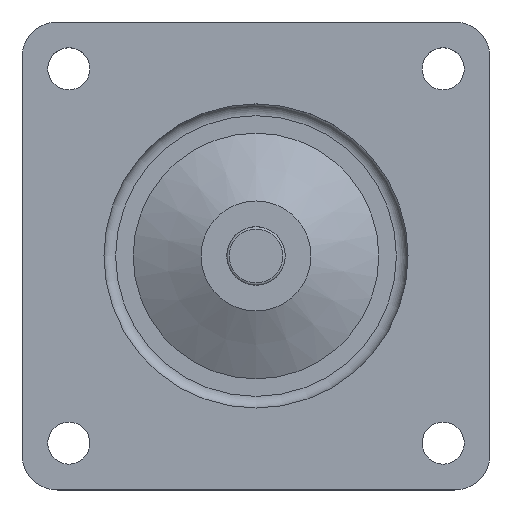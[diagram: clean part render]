
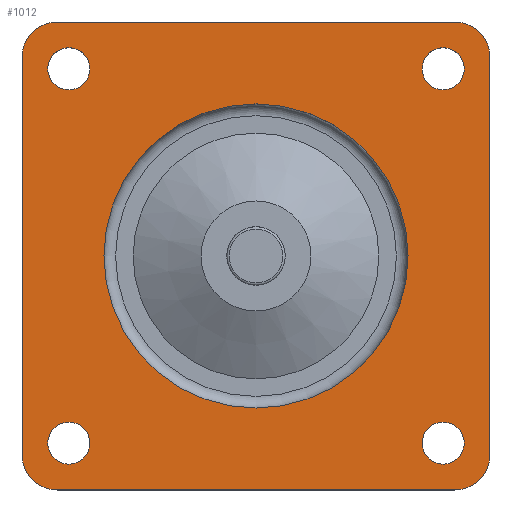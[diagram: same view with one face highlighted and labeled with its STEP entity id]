
A CAD part, top view. The second image highlights one B-rep face of the part: STEP entity #1012.
In plain terms, the highlighted planar face has unit normal (0, 0, 1).
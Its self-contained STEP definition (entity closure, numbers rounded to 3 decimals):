
#52=PLANE('',#1146);
#90=LINE('',#1618,#136);
#93=LINE('',#1626,#139);
#94=LINE('',#1640,#140);
#98=LINE('',#1663,#144);
#136=VECTOR('',#1316,170.);
#139=VECTOR('',#1325,170.);
#140=VECTOR('',#1340,170.);
#144=VECTOR('',#1370,170.);
#180=FACE_BOUND('',#372,.T.);
#181=FACE_BOUND('',#373,.T.);
#182=FACE_BOUND('',#374,.T.);
#183=FACE_BOUND('',#375,.T.);
#184=FACE_BOUND('',#376,.T.);
#272=FACE_OUTER_BOUND('',#371,.T.);
#371=EDGE_LOOP('',(#868,#869,#870,#871,#872,#873,#874,#875));
#372=EDGE_LOOP('',(#876));
#373=EDGE_LOOP('',(#877));
#374=EDGE_LOOP('',(#878));
#375=EDGE_LOOP('',(#879));
#376=EDGE_LOOP('',(#880));
#415=CIRCLE('',#1078,15.);
#416=CIRCLE('',#1081,15.);
#422=CIRCLE('',#1091,15.);
#423=CIRCLE('',#1093,15.);
#424=CIRCLE('',#1095,9.);
#425=CIRCLE('',#1097,9.);
#426=CIRCLE('',#1099,9.);
#427=CIRCLE('',#1101,9.);
#449=CIRCLE('',#1147,65.);
#498=VERTEX_POINT('',#1610);
#499=VERTEX_POINT('',#1612);
#500=VERTEX_POINT('',#1616);
#501=VERTEX_POINT('',#1620);
#502=VERTEX_POINT('',#1624);
#508=VERTEX_POINT('',#1639);
#509=VERTEX_POINT('',#1643);
#510=VERTEX_POINT('',#1647);
#511=VERTEX_POINT('',#1651);
#512=VERTEX_POINT('',#1654);
#513=VERTEX_POINT('',#1657);
#514=VERTEX_POINT('',#1660);
#535=VERTEX_POINT('',#1728);
#606=EDGE_CURVE('',#498,#499,#415,.T.);
#609=EDGE_CURVE('',#500,#498,#90,.T.);
#611=EDGE_CURVE('',#501,#500,#416,.T.);
#613=EDGE_CURVE('',#502,#501,#93,.T.);
#619=EDGE_CURVE('',#499,#508,#94,.T.);
#621=EDGE_CURVE('',#508,#509,#422,.T.);
#624=EDGE_CURVE('',#510,#502,#423,.T.);
#625=EDGE_CURVE('',#511,#511,#424,.T.);
#626=EDGE_CURVE('',#512,#512,#425,.T.);
#627=EDGE_CURVE('',#513,#513,#426,.T.);
#628=EDGE_CURVE('',#514,#514,#427,.T.);
#629=EDGE_CURVE('',#509,#510,#98,.T.);
#651=EDGE_CURVE('',#535,#535,#449,.T.);
#868=ORIENTED_EDGE('',*,*,#611,.F.);
#869=ORIENTED_EDGE('',*,*,#613,.F.);
#870=ORIENTED_EDGE('',*,*,#624,.F.);
#871=ORIENTED_EDGE('',*,*,#629,.F.);
#872=ORIENTED_EDGE('',*,*,#621,.F.);
#873=ORIENTED_EDGE('',*,*,#619,.F.);
#874=ORIENTED_EDGE('',*,*,#606,.F.);
#875=ORIENTED_EDGE('',*,*,#609,.F.);
#876=ORIENTED_EDGE('',*,*,#625,.T.);
#877=ORIENTED_EDGE('',*,*,#626,.T.);
#878=ORIENTED_EDGE('',*,*,#627,.T.);
#879=ORIENTED_EDGE('',*,*,#628,.T.);
#880=ORIENTED_EDGE('',*,*,#651,.F.);
#1012=ADVANCED_FACE('',(#272,#180,#181,#182,#183,#184),#52,.T.);
#1078=AXIS2_PLACEMENT_3D('',#1613,#1310,#1311);
#1081=AXIS2_PLACEMENT_3D('',#1622,#1320,#1321);
#1091=AXIS2_PLACEMENT_3D('',#1644,#1344,#1345);
#1093=AXIS2_PLACEMENT_3D('',#1649,#1350,#1351);
#1095=AXIS2_PLACEMENT_3D('',#1652,#1354,#1355);
#1097=AXIS2_PLACEMENT_3D('',#1655,#1358,#1359);
#1099=AXIS2_PLACEMENT_3D('',#1658,#1362,#1363);
#1101=AXIS2_PLACEMENT_3D('',#1661,#1366,#1367);
#1146=AXIS2_PLACEMENT_3D('',#1727,#1457,#1458);
#1147=AXIS2_PLACEMENT_3D('',#1729,#1459,#1460);
#1310=DIRECTION('center_axis',(0.,0.,-1.));
#1311=DIRECTION('ref_axis',(-0.707,0.707,0.));
#1316=DIRECTION('',(0.,1.,0.));
#1320=DIRECTION('center_axis',(0.,0.,-1.));
#1321=DIRECTION('ref_axis',(-0.707,-0.707,0.));
#1325=DIRECTION('',(-1.,0.,0.));
#1340=DIRECTION('',(1.,0.,0.));
#1344=DIRECTION('center_axis',(0.,0.,-1.));
#1345=DIRECTION('ref_axis',(0.707,0.707,0.));
#1350=DIRECTION('center_axis',(0.,0.,-1.));
#1351=DIRECTION('ref_axis',(0.707,-0.707,0.));
#1354=DIRECTION('center_axis',(0.,0.,-1.));
#1355=DIRECTION('ref_axis',(1.,0.,0.));
#1358=DIRECTION('center_axis',(0.,0.,-1.));
#1359=DIRECTION('ref_axis',(1.,0.,0.));
#1362=DIRECTION('center_axis',(0.,0.,-1.));
#1363=DIRECTION('ref_axis',(1.,0.,0.));
#1366=DIRECTION('center_axis',(0.,0.,-1.));
#1367=DIRECTION('ref_axis',(1.,0.,0.));
#1370=DIRECTION('',(0.,-1.,0.));
#1457=DIRECTION('center_axis',(0.,0.,1.));
#1458=DIRECTION('ref_axis',(1.,0.,0.));
#1459=DIRECTION('center_axis',(0.,0.,1.));
#1460=DIRECTION('ref_axis',(0.,-1.,0.));
#1610=CARTESIAN_POINT('',(-100.,85.,0.));
#1612=CARTESIAN_POINT('',(-85.,100.,0.));
#1613=CARTESIAN_POINT('Origin',(-85.,85.,0.));
#1616=CARTESIAN_POINT('',(-100.,-85.,0.));
#1618=CARTESIAN_POINT('',(-100.,-100.,0.));
#1620=CARTESIAN_POINT('',(-85.,-100.,0.));
#1622=CARTESIAN_POINT('Origin',(-85.,-85.,0.));
#1624=CARTESIAN_POINT('',(85.,-100.,0.));
#1626=CARTESIAN_POINT('',(100.,-100.,0.));
#1639=CARTESIAN_POINT('',(85.,100.,0.));
#1640=CARTESIAN_POINT('',(-100.,100.,0.));
#1643=CARTESIAN_POINT('',(100.,85.,0.));
#1644=CARTESIAN_POINT('Origin',(85.,85.,0.));
#1647=CARTESIAN_POINT('',(100.,-85.,0.));
#1649=CARTESIAN_POINT('Origin',(85.,-85.,0.));
#1651=CARTESIAN_POINT('',(-71.,-80.,0.));
#1652=CARTESIAN_POINT('Origin',(-80.,-80.,0.));
#1654=CARTESIAN_POINT('',(89.,-80.,0.));
#1655=CARTESIAN_POINT('Origin',(80.,-80.,0.));
#1657=CARTESIAN_POINT('',(89.,80.,0.));
#1658=CARTESIAN_POINT('Origin',(80.,80.,0.));
#1660=CARTESIAN_POINT('',(-71.,80.,0.));
#1661=CARTESIAN_POINT('Origin',(-80.,80.,0.));
#1663=CARTESIAN_POINT('',(100.,100.,0.));
#1727=CARTESIAN_POINT('Origin',(0.,-82.5,0.));
#1728=CARTESIAN_POINT('',(0.,-65.,0.));
#1729=CARTESIAN_POINT('Origin',(0.,0.,0.));
